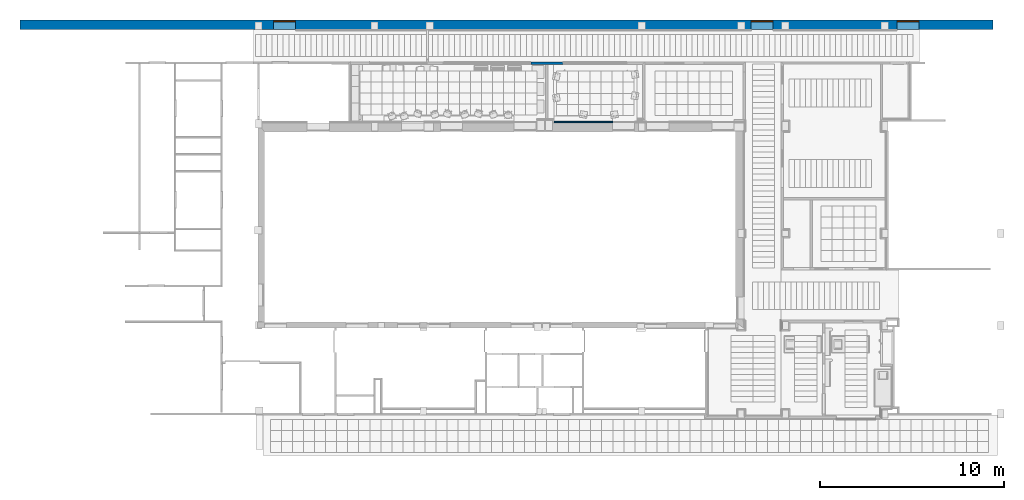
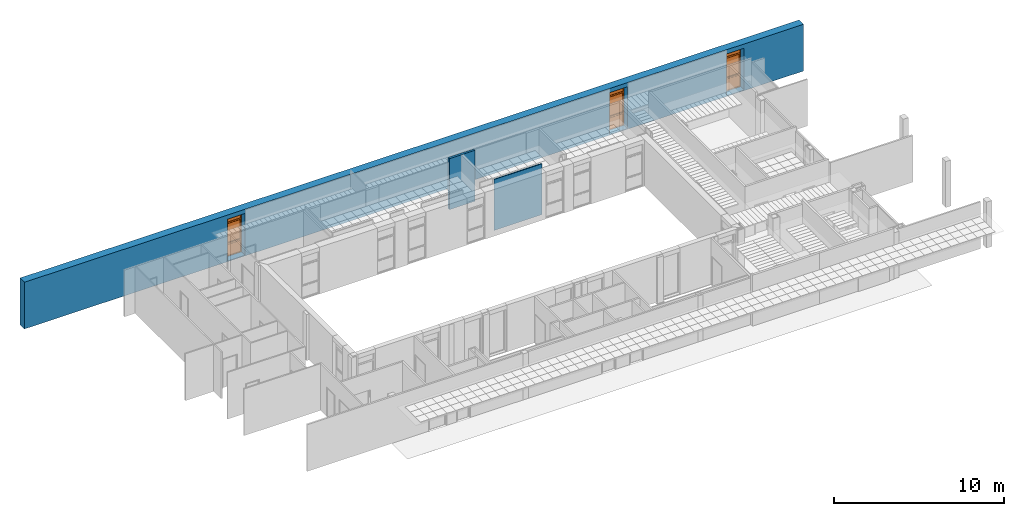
# One storey, part 37 of 60: 3 proxies, 3 walls, 3 openings.
"""IFC2X3 building model written with IfcOpenShell, lengths in millimetres."""

from ifc_helpers import new_model, entity, si_unit, converted_unit, derived_unit, money_unit, direction, frame, origin_with_axes, origin_2d_with_axis, place, context, subcontext, project, spatial, polyline, rectangle, outline, extrude, open_shell, faceted_brep, surface_model, source, transform, mapped, material, layer, layer_set, layer_usage, type_object, element, fill, save


model = new_model("IFC2X3")

# Units and contexts
model_context = context("Model", 3, precision=0.01, world=origin_with_axes(), true_north=direction((0.0, 1.0)))
body_context = subcontext(model_context, "Body", "Model", "MODEL_VIEW")
ifc_project = project(units=[si_unit("LENGTHUNIT", "METRE", prefix="MILLI"), si_unit("AREAUNIT", "SQUARE_METRE"), si_unit("VOLUMEUNIT", "CUBIC_METRE"), converted_unit("PLANEANGLEUNIT", "DEGREE", entity("IfcPlaneAngleMeasure", 0.0174532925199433), si_unit("PLANEANGLEUNIT", "RADIAN"), dimensions=[0, 0, 0, 0, 0, 0, 0]), money_unit("USD"), converted_unit("TIMEUNIT", "Year", entity("IfcTimeMeasure", 31557600.0), si_unit("TIMEUNIT", "SECOND"), dimensions=[0, 0, 1, 0, 0, 0, 0]), si_unit("MASSUNIT", "GRAM", prefix="KILO"), si_unit("THERMODYNAMICTEMPERATUREUNIT", "DEGREE_CELSIUS"), si_unit("LUMINOUSINTENSITYUNIT", "LUMEN"), si_unit("ENERGYUNIT", "JOULE", prefix="MEGA"), derived_unit("THERMALCONDUCTANCEUNIT", [(si_unit("POWERUNIT", "WATT"), 1), (si_unit("LENGTHUNIT", "METRE"), -1), (si_unit("THERMODYNAMICTEMPERATUREUNIT", "KELVIN"), -1)]), derived_unit("SPECIFICHEATCAPACITYUNIT", [(si_unit("ENERGYUNIT", "JOULE"), 1), (si_unit("MASSUNIT", "GRAM", prefix="KILO"), -1), (si_unit("THERMODYNAMICTEMPERATUREUNIT", "KELVIN"), -1)]), derived_unit("MASSDENSITYUNIT", [(si_unit("MASSUNIT", "GRAM", prefix="KILO"), 1), (si_unit("VOLUMEUNIT", "CUBIC_METRE"), -1)])], contexts=[model_context])

# Site, building, storey
site_placement = place(None, origin_with_axes())
site = spatial("IfcSite", under=ifc_project, at=site_placement, Name="Sitio", CompositionType="ELEMENT")
building_placement = place(site_placement, origin_with_axes())
building = spatial("IfcBuilding", under=site, at=building_placement, Name="Construcción", CompositionType="ELEMENT")
storey_placement = place(building_placement, frame((0.0, 0.0, 3650.0), z_axis=(0.0, 0.0, 1.0), x_axis=(1.0, 0.0, 0.0)))
storey = spatial("IfcBuildingStorey", under=building, at=storey_placement, Name="PLANTA 2ª", CompositionType="ELEMENT", Elevation=3650.0)

# Wall, openings, proxies
ifc_material_1 = material(Name="ARQ_CE217_Gero")
ifc_layer_1 = layer(ifc_material_1, 100.0, ventilated="UNKNOWN")
ifc_material_2 = material(Name="ARQ_AI031_Aillament_Poliestireno expandido EPS")
ifc_layer_2 = layer(ifc_material_2, 205.0, ventilated="UNKNOWN")
ifc_material_3 = material(Name="ARQ_CE218_Ceramic")
ifc_layer_3 = layer(ifc_material_3, 200.0, ventilated="UNKNOWN")
ifc_material_4 = material(Name="ARQ_AM246_Arrebossat_De_Guix")
ifc_layer_4 = layer(ifc_material_4, 10.0, ventilated="UNKNOWN")
ifc_layer_set_1 = layer_set([ifc_layer_1, ifc_layer_2, ifc_layer_3, ifc_layer_4], Name="façana pati CR5")
ifc_layer_usage_1 = layer_usage(ifc_layer_set_1, "AXIS2", "NEGATIVE", 515.0)
wall_type_1 = type_object("IfcWallType", Name="façana pati CR5 515", PredefinedType="NOTDEFINED")
wall_1_placement = place(storey_placement, frame((11882.64037720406, 4378.454186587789, 0.0), z_axis=(0.0, 0.0, 1.0), x_axis=(-1.0, 0.0, 0.0)))
wall_1 = element("IfcWallStandardCase", 1, at=wall_1_placement, inside=storey, type_object=wall_type_1, material=ifc_layer_usage_1, Name="MS-201", context=body_context, shape_type="SweptSolid", body=[
    extrude(outline(polyline([(0.0, 0.0), (52850.32927292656, 0.0), (52850.32927292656, 515.0000000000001), (0.0, 515.0000000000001), (0.0, 0.0)])), origin_with_axes(), (0.0, 0.0, 1.0), 3350.0),
])
opening_1_placement = place(wall_1_placement, frame((12539.95968440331, 0.0, 49.99999999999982), z_axis=(0.0, 0.0, 1.0), x_axis=(1.0, 0.0, 0.0)))
opening_1 = element("IfcOpeningElement", 2, at=opening_1_placement, cuts=wall_1, Name="V - 012", context=body_context, shape_type="SweptSolid", body=[
    extrude(rectangle(XDim=1199.999999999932, YDim=3000.0, at=origin_2d_with_axis()), frame((0.0, 49.99999999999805, 1500.0), z_axis=(0.0, -1.0, 0.0), x_axis=(-1.0, 0.0, 0.0)), (0.0, 0.0, -1.0), 980.0),
    extrude(rectangle(XDim=1199.999999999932, YDim=3000.0, at=origin_2d_with_axis()), frame((0.0, 49.99999999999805, 1500.0), z_axis=(0.0, 1.0, 0.0), x_axis=(-1.0, 0.0, 0.0)), (0.0, 0.0, -1.0), 565.0000000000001),
])
opening_2_placement = place(wall_1_placement, frame((38478.07516236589, 0.0, 49.99999999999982), z_axis=(0.0, 0.0, 1.0), x_axis=(1.0, 0.0, 0.0)))
opening_2 = element("IfcOpeningElement", 3, at=opening_2_placement, cuts=wall_1, Name="V - 011", context=body_context, shape_type="SweptSolid", body=[
    extrude(rectangle(XDim=1199.999999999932, YDim=3000.0, at=origin_2d_with_axis()), frame((0.0, 49.99999999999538, 1500.0), z_axis=(0.0, -1.0, 0.0), x_axis=(-1.0, 0.0, 0.0)), (0.0, 0.0, -1.0), 980.0),
    extrude(rectangle(XDim=1199.999999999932, YDim=3000.0, at=origin_2d_with_axis()), frame((0.0, 49.99999999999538, 1500.0), z_axis=(0.0, 1.0, 0.0), x_axis=(-1.0, 0.0, 0.0)), (0.0, 0.0, -1.0), 565.0000000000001),
])
opening_3_placement = place(wall_1_placement, frame((4615.987117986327, 0.0, 49.99999999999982), z_axis=(0.0, 0.0, 1.0), x_axis=(1.0, 0.0, 0.0)))
opening_3 = element("IfcOpeningElement", 4, at=opening_3_placement, cuts=wall_1, Name="V - 013", context=body_context, shape_type="SweptSolid", body=[
    extrude(rectangle(XDim=1199.999999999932, YDim=3000.0, at=origin_2d_with_axis()), frame((0.0, 49.99999999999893, 1500.0), z_axis=(0.0, -1.0, 0.0), x_axis=(-1.0, 0.0, 0.0)), (0.0, 0.0, -1.0), 980.0),
    extrude(rectangle(XDim=1199.999999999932, YDim=3000.0, at=origin_2d_with_axis()), frame((0.0, 49.99999999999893, 1500.0), z_axis=(0.0, 1.0, 0.0), x_axis=(-1.0, 0.0, 0.0)), (0.0, 0.0, -1.0), 565.0000000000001),
])
building_element_proxy_type = type_object("IfcBuildingElementProxyType", Name="Ventana Vertical Multi-Faja 27", PredefinedType="NOTDEFINED")
shared_shape = source(origin_with_axes(), body_context, "Body", "SurfaceModel", [
    faceted_brep([(-574.9999999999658, 0.0, 925.0), (-549.9999999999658, 0.0, 925.0), (-549.9999999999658, 0.0, 850.0), (-549.9999999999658, 0.0, 50.00000000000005), (-599.9999999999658, 0.0, 50.00000000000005), (-599.9999999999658, 0.0, 2950.0), (-549.9999999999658, 0.0, 2950.0), (-549.9999999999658, 0.0, 2450.0), (-549.9999999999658, 0.0, 2375.0), (-574.9999999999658, 0.0, 2375.0), (-574.9999999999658, -25.00000000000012, 925.0), (-549.9999999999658, -25.00000000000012, 925.0), (-549.9999999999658, -25.00000000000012, 950.0000000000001), (-549.9999999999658, -50.00000000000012, 950.0000000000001), (-549.9999999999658, -50.00000000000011, 850.0), (-549.9999999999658, -50.00000000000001, 50.00000000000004), (-599.9999999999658, -50.00000000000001, 50.00000000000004), (-599.9999999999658, -50.00000000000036, 2950.0), (-549.9999999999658, -50.00000000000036, 2950.0), (-549.9999999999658, -50.0000000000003, 2450.0), (-549.9999999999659, -25.00000000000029, 2375.0), (-549.9999999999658, -50.00000000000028, 2350.0), (-549.9999999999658, -25.00000000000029, 2350.0), (-574.9999999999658, -25.00000000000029, 2375.0)], [[[0, 1, 2, 3, 4, 5, 6, 7, 8, 9]], [[0, 10, 11, 1]], [[11, 12, 13, 14, 2, 1]], [[3, 2, 14, 15]], [[4, 3, 15, 16]], [[5, 4, 16, 17]], [[6, 5, 17, 18]], [[7, 6, 18, 19]], [[20, 8, 7, 19, 21, 22]], [[20, 23, 9, 8]], [[9, 23, 10, 0]], [[22, 12, 11, 10, 23, 20]], [[22, 21, 13, 12]], [[17, 16, 15, 14, 13, 21, 19, 18]]]),
    faceted_brep([(574.9999999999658, 0.0, 925.0), (574.9999999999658, 0.0, 2375.0), (549.9999999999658, 0.0, 2375.0), (549.9999999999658, 0.0, 2450.0), (549.9999999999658, 0.0, 2950.0), (599.9999999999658, 0.0, 2950.0), (599.9999999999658, 0.0, 50.00000000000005), (549.9999999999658, 0.0, 50.00000000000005), (549.9999999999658, 0.0, 850.0), (549.9999999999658, 0.0, 925.0), (574.9999999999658, -25.00000000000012, 925.0), (574.9999999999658, -25.00000000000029, 2375.0), (549.9999999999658, -25.00000000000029, 2375.0), (549.9999999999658, -25.00000000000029, 2350.0), (549.9999999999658, -50.00000000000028, 2350.0), (549.9999999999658, -50.0000000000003, 2450.0), (549.9999999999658, -50.00000000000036, 2950.0), (599.9999999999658, -50.00000000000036, 2950.0), (599.9999999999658, -50.00000000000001, 50.00000000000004), (549.9999999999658, -50.00000000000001, 50.00000000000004), (549.9999999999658, -50.00000000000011, 850.0), (549.9999999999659, -25.00000000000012, 925.0), (549.9999999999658, -50.00000000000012, 950.0000000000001), (549.9999999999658, -25.00000000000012, 950.0000000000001)], [[[0, 1, 2, 3, 4, 5, 6, 7, 8, 9]], [[0, 10, 11, 1]], [[1, 11, 12, 2]], [[12, 13, 14, 15, 3, 2]], [[4, 3, 15, 16]], [[5, 4, 16, 17]], [[6, 5, 17, 18]], [[7, 6, 18, 19]], [[8, 7, 19, 20]], [[21, 9, 8, 20, 22, 23]], [[9, 21, 10, 0]], [[12, 11, 10, 21, 23, 13]], [[23, 22, 14, 13]], [[14, 22, 20, 19, 18, 17, 16, 15]]]),
    faceted_brep([(-549.9999999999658, -25.00000000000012, 950.0000000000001), (-549.9999999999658, -50.00000000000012, 950.0000000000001), (549.9999999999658, -50.00000000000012, 950.0000000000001), (549.9999999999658, -25.00000000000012, 950.0000000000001), (-549.9999999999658, -25.00000000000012, 925.0), (-549.9999999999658, 0.0, 925.0), (-549.9999999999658, 0.0, 850.0), (-549.9999999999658, -50.00000000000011, 850.0), (549.9999999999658, -50.00000000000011, 850.0), (549.9999999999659, -25.00000000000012, 925.0), (549.9999999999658, 0.0, 850.0), (549.9999999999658, 0.0, 925.0)], [[[0, 1, 2, 3]], [[4, 5, 6, 7, 1, 0]], [[1, 7, 8, 2]], [[9, 3, 2, 8, 10, 11]], [[9, 4, 0, 3]], [[5, 4, 9, 11]], [[11, 10, 6, 5]], [[6, 10, 8, 7]]]),
    faceted_brep([(-549.9999999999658, 0.0, 2375.0), (-549.9999999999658, 0.0, 2450.0), (549.9999999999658, 0.0, 2450.0), (549.9999999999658, 0.0, 2375.0), (-549.9999999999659, -25.00000000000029, 2375.0), (-549.9999999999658, -25.00000000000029, 2350.0), (-549.9999999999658, -50.00000000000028, 2350.0), (-549.9999999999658, -50.0000000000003, 2450.0), (549.9999999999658, -50.0000000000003, 2450.0), (549.9999999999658, -25.00000000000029, 2375.0), (549.9999999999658, -50.00000000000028, 2350.0), (549.9999999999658, -25.00000000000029, 2350.0)], [[[0, 1, 2, 3]], [[4, 5, 6, 7, 1, 0]], [[2, 1, 7, 8]], [[9, 3, 2, 8, 10, 11]], [[9, 4, 0, 3]], [[11, 5, 4, 9]], [[11, 10, 6, 5]], [[7, 6, 10, 8]]]),
    faceted_brep([(549.9999999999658, -50.00000000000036, 2950.0), (549.9999999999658, 0.0, 2950.0), (599.9999999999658, 0.0, 2950.0), (599.9999999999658, -50.00000000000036, 2950.0), (-549.9999999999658, -50.00000000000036, 2950.0), (-549.9999999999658, 0.0, 2950.0), (-599.9999999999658, 0.0, 2950.0), (-599.9999999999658, 0.0, 3000.0), (599.9999999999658, 0.0, 3000.0), (599.9999999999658, -50.00000000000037, 3000.0), (-599.9999999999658, -50.00000000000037, 3000.0), (-599.9999999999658, -50.00000000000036, 2950.0)], [[[0, 1, 2, 3]], [[4, 5, 1, 0]], [[1, 5, 6, 7, 8, 2]], [[3, 2, 8, 9]], [[0, 3, 9, 10, 11, 4]], [[11, 6, 5, 4]], [[10, 7, 6, 11]], [[9, 8, 7, 10]]]),
    faceted_brep([(-549.9999999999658, -50.00000000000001, 50.0), (-549.9999999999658, 0.0, 50.00000000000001), (-599.9999999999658, 0.0, 50.00000000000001), (-599.9999999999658, -50.00000000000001, 50.0), (549.9999999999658, -50.00000000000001, 50.0), (549.9999999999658, 0.0, 50.00000000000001), (599.9999999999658, 0.0, 50.00000000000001), (599.9999999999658, 0.0, 0.0), (-599.9999999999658, 0.0, 0.0), (-599.9999999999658, -50.0, 0.0), (599.9999999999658, -50.0, 0.0), (599.9999999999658, -50.00000000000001, 50.0)], [[[0, 1, 2, 3]], [[4, 5, 1, 0]], [[1, 5, 6, 7, 8, 2]], [[3, 2, 8, 9]], [[0, 3, 9, 10, 11, 4]], [[11, 6, 5, 4]], [[10, 7, 6, 11]], [[9, 8, 7, 10]]]),
    surface_model("IfcShellBasedSurfaceModel", [(-549.9999999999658, -35.0, 49.99999999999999), (549.9999999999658, -35.0, 49.99999999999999), (549.9999999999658, -35.0000000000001, 850.0), (-549.9999999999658, -35.0000000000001, 850.0)], [open_shell([[[0, 1, 2, 3]]])]),
    surface_model("IfcShellBasedSurfaceModel", [(-549.9999999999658, -15.0, 49.99999999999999), (-549.9999999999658, -15.0000000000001, 850.0), (549.9999999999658, -15.0000000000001, 850.0), (549.9999999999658, -15.0, 49.99999999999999)], [open_shell([[[0, 1, 2, 3]]])]),
    faceted_brep([(-521.4999999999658, -25.00000000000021, 1677.0), (-522.8397459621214, -25.00000000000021, 1682.0), (-522.8397459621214, -37.00000000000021, 1682.0), (-521.4999999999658, -37.00000000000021, 1677.0), (-521.4999999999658, -25.0000000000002, 1623.0), (-522.8397459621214, -25.0000000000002, 1618.0), (-526.4999999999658, -25.0000000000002, 1614.339745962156), (-531.4999999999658, -25.0000000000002, 1613.0), (-543.4999999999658, -25.0000000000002, 1613.0), (-548.4999999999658, -25.0000000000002, 1614.339745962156), (-552.1602540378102, -25.0000000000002, 1618.0), (-553.4999999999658, -25.0000000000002, 1623.0), (-553.4999999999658, -25.00000000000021, 1677.0), (-552.1602540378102, -25.00000000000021, 1682.0), (-548.4999999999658, -25.00000000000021, 1685.660254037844), (-543.4999999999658, -25.00000000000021, 1687.0), (-531.4999999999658, -25.00000000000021, 1687.0), (-526.4999999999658, -25.00000000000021, 1685.660254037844), (-526.4999999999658, -37.00000000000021, 1685.660254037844), (-531.4999999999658, -37.00000000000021, 1687.0), (-543.4999999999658, -37.00000000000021, 1687.0), (-548.4999999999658, -37.00000000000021, 1685.660254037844), (-552.1602540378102, -37.00000000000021, 1682.0), (-553.4999999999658, -37.00000000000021, 1677.0), (-553.4999999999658, -37.0000000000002, 1623.0), (-552.1602540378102, -37.0000000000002, 1618.0), (-548.4999999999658, -37.0000000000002, 1614.339745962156), (-543.4999999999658, -37.0000000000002, 1613.0), (-531.4999999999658, -37.0000000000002, 1613.0), (-526.4999999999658, -37.0000000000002, 1614.339745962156), (-522.8397459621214, -37.0000000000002, 1618.0), (-521.4999999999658, -37.0000000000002, 1623.0)], [[[0, 1, 2, 3]], [[0, 4, 5, 6, 7, 8, 9, 10, 11, 12, 13, 14, 15, 16, 17, 1]], [[1, 17, 18, 2]], [[3, 2, 18, 19, 20, 21, 22, 23, 24, 25, 26, 27, 28, 29, 30, 31]], [[4, 0, 3, 31]], [[5, 4, 31, 30]], [[6, 5, 30, 29]], [[7, 6, 29, 28]], [[8, 7, 28, 27]], [[9, 8, 27, 26]], [[10, 9, 26, 25]], [[11, 10, 25, 24]], [[12, 11, 24, 23]], [[13, 12, 23, 22]], [[14, 13, 22, 21]], [[15, 14, 21, 20]], [[16, 15, 20, 19]], [[17, 16, 19, 18]]]),
    faceted_brep([(-537.4999999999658, -37.0000000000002, 1663.5), (-544.2499999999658, -37.0000000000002, 1661.69134295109), (-544.2499999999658, -61.00000000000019, 1661.69134295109), (-537.4999999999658, -61.00000000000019, 1663.5), (-530.7499999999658, -37.0000000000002, 1661.69134295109), (-525.8086570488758, -37.0000000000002, 1656.75), (-523.9999999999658, -37.0000000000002, 1650.0), (-525.808657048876, -37.0000000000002, 1643.25), (-530.7499999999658, -37.0000000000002, 1638.30865704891), (-537.4999999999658, -37.0000000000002, 1636.5), (-544.2499999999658, -37.0000000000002, 1638.30865704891), (-549.1913429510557, -37.0000000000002, 1643.25), (-550.9999999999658, -37.0000000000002, 1650.0), (-549.1913429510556, -37.0000000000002, 1656.75), (-549.1913429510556, -61.00000000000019, 1656.75), (-550.9999999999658, -61.00000000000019, 1650.0), (-549.1913429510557, -61.00000000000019, 1643.25), (-544.2499999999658, -61.00000000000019, 1638.30865704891), (-537.4999999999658, -61.00000000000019, 1636.5), (-530.7499999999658, -61.00000000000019, 1638.30865704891), (-525.808657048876, -61.00000000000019, 1643.25), (-523.9999999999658, -61.00000000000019, 1650.0), (-525.8086570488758, -61.00000000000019, 1656.75), (-530.7499999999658, -61.00000000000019, 1661.69134295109)], [[[0, 1, 2, 3]], [[0, 4, 5, 6, 7, 8, 9, 10, 11, 12, 13, 1]], [[1, 13, 14, 2]], [[3, 2, 14, 15, 16, 17, 18, 19, 20, 21, 22, 23]], [[4, 0, 3, 23]], [[5, 4, 23, 22]], [[6, 5, 22, 21]], [[7, 6, 21, 20]], [[8, 7, 20, 19]], [[9, 8, 19, 18]], [[10, 9, 18, 17]], [[11, 10, 17, 16]], [[12, 11, 16, 15]], [[13, 12, 15, 14]]]),
    faceted_brep([(-525.9999999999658, -61.00000000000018, 1543.0), (-537.4999999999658, -61.00000000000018, 1540.0), (-548.9999999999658, -61.00000000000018, 1543.0), (-550.9999999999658, -61.00000000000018, 1546.0), (-550.9999999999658, -61.00000000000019, 1650.0), (-549.1913429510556, -61.00000000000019, 1656.75), (-544.2499999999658, -61.00000000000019, 1661.69134295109), (-537.4999999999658, -61.00000000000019, 1663.5), (-530.7499999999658, -61.00000000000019, 1661.69134295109), (-525.8086570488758, -61.00000000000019, 1656.75), (-523.9999999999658, -61.00000000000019, 1650.0), (-523.9999999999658, -61.00000000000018, 1546.0), (-525.999999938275, -69.00000000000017, 1543.000000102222), (-537.4999999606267, -69.00000000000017, 1539.999999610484), (-548.9999999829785, -69.00000000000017, 1543.000000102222), (-551.000000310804, -69.00000000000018, 1545.999999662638), (-551.000000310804, -69.0000000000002, 1649.99999994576), (-549.1913429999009, -69.0000000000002, 1656.749999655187), (-544.2499996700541, -69.0000000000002, 1661.691342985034), (-537.4999999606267, -69.0000000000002, 1663.500000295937), (-530.7500002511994, -69.0000000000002, 1661.691342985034), (-525.8086569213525, -69.0000000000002, 1656.749999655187), (-523.9999996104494, -69.0000000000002, 1649.99999994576), (-523.9999996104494, -69.00000000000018, 1545.999999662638), (-527.8625374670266, -71.99999956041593, 1545.61451963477), (-537.4999999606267, -71.99999956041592, 1543.100398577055), (-547.1374624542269, -71.99999956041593, 1545.61451963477), (-548.0000007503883, -71.99999956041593, 1546.908326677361), (-548.0000007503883, -71.99999956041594, 1649.605042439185), (-546.50161703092, -71.99999956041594, 1655.197085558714), (-542.697085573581, -71.99999956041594, 1659.001617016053), (-537.4999999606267, -71.99999956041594, 1660.394172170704), (-532.3029143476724, -71.99999956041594, 1659.001617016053), (-528.4983828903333, -71.99999956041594, 1655.197085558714), (-526.9999991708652, -71.99999956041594, 1649.605042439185), (-526.9999991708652, -71.99999956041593, 1546.908326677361)], [[[0, 1, 2, 3, 4, 5, 6, 7, 8, 9, 10, 11]], [[1, 0, 12, 13]], [[2, 1, 13, 14]], [[3, 2, 14, 15]], [[4, 3, 15, 16]], [[5, 4, 16, 17]], [[6, 5, 17, 18]], [[7, 6, 18, 19]], [[8, 7, 19, 20]], [[9, 8, 20, 21]], [[10, 9, 21, 22]], [[11, 10, 22, 23]], [[0, 11, 23, 12]], [[13, 12, 24, 25]], [[14, 13, 25, 26]], [[15, 14, 26, 27]], [[16, 15, 27, 28]], [[17, 16, 28, 29]], [[18, 17, 29, 30]], [[19, 18, 30, 31]], [[20, 19, 31, 32]], [[21, 20, 32, 33]], [[22, 21, 33, 34]], [[23, 22, 34, 35]], [[12, 23, 35, 24]], [[26, 25, 24, 35, 34, 33, 32, 31, 30, 29, 28, 27]]]),
    faceted_brep([(-524.9999999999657, -25.00000000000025, 2325.0), (-524.9999999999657, 24.99999999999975, 2325.0), (-574.9999999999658, 24.99999999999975, 2325.0), (-574.9999999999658, -25.00000000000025, 2325.0), (-524.9999999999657, -25.00000000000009, 975.0000000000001), (-524.9999999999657, 24.99999999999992, 975.0000000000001), (-574.9999999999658, 24.99999999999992, 975.0000000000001), (-574.9999999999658, -25.00000000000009, 975.0000000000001)], [[[0, 1, 2, 3]], [[4, 5, 1, 0]], [[1, 5, 6, 2]], [[3, 2, 6, 7]], [[0, 3, 7, 4]], [[7, 6, 5, 4]]]),
    faceted_brep([(524.9999999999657, -25.00000000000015, 975.0000000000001), (524.9999999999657, 24.99999999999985, 975.0000000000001), (574.9999999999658, 24.99999999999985, 975.0000000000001), (574.9999999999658, -25.00000000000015, 975.0000000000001), (524.9999999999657, -25.00000000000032, 2325.0), (524.9999999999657, 24.99999999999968, 2325.0), (574.9999999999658, 24.99999999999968, 2325.0), (574.9999999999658, -25.00000000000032, 2325.0)], [[[0, 1, 2, 3]], [[4, 5, 1, 0]], [[1, 5, 6, 2]], [[3, 2, 6, 7]], [[0, 3, 7, 4]], [[7, 6, 5, 4]]]),
    faceted_brep([(574.9999999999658, -25.00000000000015, 925.0), (574.9999999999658, 24.99999999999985, 925.0), (574.9999999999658, 24.99999999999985, 975.0000000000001), (574.9999999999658, -25.00000000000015, 975.0000000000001), (-574.9999999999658, -25.00000000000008, 925.0), (-574.9999999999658, 24.99999999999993, 925.0), (-574.9999999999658, 24.99999999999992, 975.0000000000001), (-524.9999999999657, 24.99999999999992, 975.0000000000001), (524.9999999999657, 24.99999999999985, 975.0000000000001), (524.9999999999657, -25.00000000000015, 975.0000000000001), (-524.9999999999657, -25.00000000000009, 975.0000000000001), (-574.9999999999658, -25.00000000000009, 975.0000000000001)], [[[0, 1, 2, 3]], [[4, 5, 1, 0]], [[1, 5, 6, 7, 8, 2]], [[3, 2, 8, 9]], [[0, 3, 9, 10, 11, 4]], [[11, 6, 5, 4]], [[10, 7, 6, 11]], [[9, 8, 7, 10]]]),
    faceted_brep([(-574.9999999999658, -25.00000000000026, 2375.0), (-574.9999999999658, 24.99999999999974, 2375.0), (-574.9999999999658, 24.99999999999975, 2325.0), (-574.9999999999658, -25.00000000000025, 2325.0), (574.9999999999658, -25.00000000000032, 2375.0), (574.9999999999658, 24.99999999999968, 2375.0), (574.9999999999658, 24.99999999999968, 2325.0), (524.9999999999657, 24.99999999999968, 2325.0), (-524.9999999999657, 24.99999999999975, 2325.0), (-524.9999999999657, -25.00000000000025, 2325.0), (524.9999999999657, -25.00000000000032, 2325.0), (574.9999999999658, -25.00000000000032, 2325.0)], [[[0, 1, 2, 3]], [[4, 5, 1, 0]], [[1, 5, 6, 7, 8, 2]], [[3, 2, 8, 9]], [[0, 3, 9, 10, 11, 4]], [[11, 6, 5, 4]], [[10, 7, 6, 11]], [[9, 8, 7, 10]]]),
    surface_model("IfcShellBasedSurfaceModel", [(-524.9999999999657, -10.00000000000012, 975.0000000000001), (524.9999999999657, -10.00000000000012, 975.0000000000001), (524.9999999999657, -10.00000000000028, 2325.0), (-524.9999999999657, -10.00000000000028, 2325.0)], [open_shell([[[0, 1, 2, 3]]])]),
    surface_model("IfcShellBasedSurfaceModel", [(-524.9999999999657, 9.999999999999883, 975.0000000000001), (-524.9999999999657, 9.99999999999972, 2325.0), (524.9999999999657, 9.99999999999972, 2325.0), (524.9999999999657, 9.999999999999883, 975.0000000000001)], [open_shell([[[0, 1, 2, 3]]])]),
    surface_model("IfcShellBasedSurfaceModel", [(-549.9999999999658, -35.0000000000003, 2450.0), (549.9999999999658, -35.0000000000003, 2450.0), (549.9999999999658, -35.00000000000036, 2950.0), (-549.9999999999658, -35.00000000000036, 2950.0)], [open_shell([[[0, 1, 2, 3]]])]),
    surface_model("IfcShellBasedSurfaceModel", [(-549.9999999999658, -15.0000000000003, 2450.0), (-549.9999999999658, -15.00000000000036, 2950.0), (549.9999999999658, -15.00000000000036, 2950.0), (549.9999999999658, -15.0000000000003, 2450.0)], [open_shell([[[0, 1, 2, 3]]])]),
])
proxy_1_placement = place(opening_2_placement, frame((599.9999999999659, 0.0, 0.0), z_axis=(0.0, 0.0, 1.0), x_axis=(-1.0, 0.0, 0.0)))
proxy_1 = element("IfcBuildingElementProxy", 5, at=proxy_1_placement, inside=storey, type_object=building_element_proxy_type, Name="V - 011", context=body_context, shape_type="MappedRepresentation", body=[
    mapped(shared_shape, transform((599.9999999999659, -49.99999999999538, 0.0))),
])
fill(opening_2, proxy_1)
proxy_2_placement = place(opening_1_placement, frame((599.9999999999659, 0.0, 0.0), z_axis=(0.0, 0.0, 1.0), x_axis=(-1.0, 0.0, 0.0)))
proxy_2 = element("IfcBuildingElementProxy", 6, at=proxy_2_placement, inside=storey, type_object=building_element_proxy_type, Name="V - 012", context=body_context, shape_type="MappedRepresentation", body=[
    mapped(shared_shape, transform((599.9999999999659, -49.99999999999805, 0.0))),
])
fill(opening_1, proxy_2)
proxy_3_placement = place(opening_3_placement, frame((599.9999999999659, 0.0, 0.0), z_axis=(0.0, 0.0, 1.0), x_axis=(-1.0, 0.0, 0.0)))
proxy_3 = element("IfcBuildingElementProxy", 7, at=proxy_3_placement, inside=storey, type_object=building_element_proxy_type, Name="V - 013", context=body_context, shape_type="MappedRepresentation", body=[
    mapped(shared_shape, transform((599.9999999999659, -49.99999999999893, 0.0))),
])
fill(opening_3, proxy_3)

# Walls
ifc_material_5 = material(Name="ARQ_FU093_Panellat_HPL")
ifc_layer_5 = layer(ifc_material_5, 6.0, ventilated="UNKNOWN")
ifc_material_6 = material(Name="ARQ_EN271_Camara_Aire")
ifc_layer_6 = layer(ifc_material_6, 6.0, ventilated="UNKNOWN")
ifc_material_7 = material(Name="Panel de Yeso Laminado")
ifc_layer_7 = layer(ifc_material_7, 13.0, ventilated="UNKNOWN")
ifc_material_8 = material(Name="ARQ_AI033_Aillament_Llana_De_Roca")
ifc_layer_8 = layer(ifc_material_8, 40.0, ventilated="UNKNOWN")
ifc_layer_set_2 = layer_set([ifc_layer_5, ifc_layer_6, ifc_layer_7, ifc_layer_8], Name="Pladur Tras 40 / 1N +HPL")
ifc_layer_usage_2 = layer_usage(ifc_layer_set_2, "AXIS2", "POSITIVE", -65.0)
wall_type_2 = type_object("IfcWallType", Name="Pladur Tras 40 / 1N +HPL 65", PredefinedType="NOTDEFINED")
wall_2_placement = place(storey_placement, frame((-8781.931355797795, -1193.975823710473, 0.0), z_axis=(0.0, 0.0, 1.0), x_axis=(-1.0, 0.0, 0.0)))
element("IfcWallStandardCase", 8, at=wall_2_placement, inside=storey, type_object=wall_type_2, material=ifc_layer_usage_2, Name="MS-243", context=body_context, shape_type="SweptSolid", body=[
    extrude(outline(polyline([(0.0, -64.99999999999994), (3188.928233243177, -64.99999999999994), (3253.928233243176, 0.0), (0.0, 0.0), (0.0, -64.99999999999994)])), origin_with_axes(), (0.0, 0.0, 1.0), 3650.0),
])
ifc_layer_9 = layer(ifc_material_5, 6.0, ventilated="UNKNOWN")
ifc_layer_10 = layer(ifc_material_6, 6.0, ventilated="UNKNOWN")
ifc_layer_11 = layer(ifc_material_7, 13.0, ventilated="UNKNOWN")
ifc_layer_12 = layer(ifc_material_7, 13.0, ventilated="UNKNOWN")
ifc_layer_13 = layer(ifc_material_8, 70.0, ventilated="UNKNOWN")
ifc_layer_14 = layer(ifc_material_7, 13.0, ventilated="UNKNOWN")
ifc_layer_15 = layer(ifc_material_7, 13.0, ventilated="UNKNOWN")
ifc_layer_16 = layer(ifc_material_6, 6.0, ventilated="UNKNOWN")
ifc_layer_17 = layer(ifc_material_5, 6.0, ventilated="UNKNOWN")
ifc_layer_set_3 = layer_set([ifc_layer_9, ifc_layer_10, ifc_layer_11, ifc_layer_12, ifc_layer_13, ifc_layer_14, ifc_layer_15, ifc_layer_16, ifc_layer_17], Name="CR Pladur 70 HPL 2 cares")
ifc_layer_usage_3 = layer_usage(ifc_layer_set_3, "AXIS2", "NEGATIVE", 0.0)
wall_type_3 = type_object("IfcWallType", Name="CR Pladur 70 HPL 2 cares 146", PredefinedType="NOTDEFINED")
wall_3_placement = place(storey_placement, frame((-11482.83549084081, 1963.554870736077, 0.0), z_axis=(0.0, 0.0, 1.0), x_axis=(-1.0, 0.0, 0.0)))
element("IfcWallStandardCase", 9, at=wall_3_placement, inside=storey, type_object=wall_type_3, material=ifc_layer_usage_3, Name="MS-211", context=body_context, shape_type="SweptSolid", body=[
    extrude(outline(polyline([(0.0, -146.0000000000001), (1742.217435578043, -146.0000000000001), (1742.217435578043, 0.0), (0.0, 0.0), (0.0, -146.0000000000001)])), origin_with_axes(), (0.0, 0.0, 1.0), 3650.0),
])

save(model, "model.ifc")
